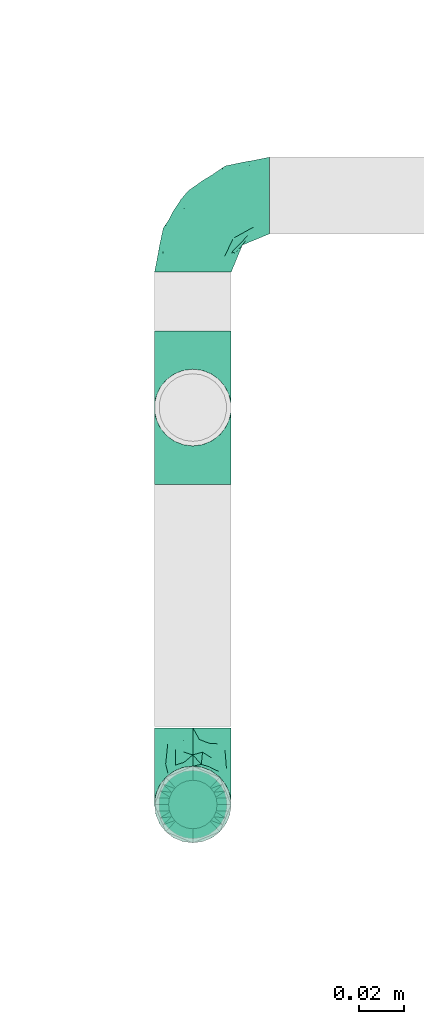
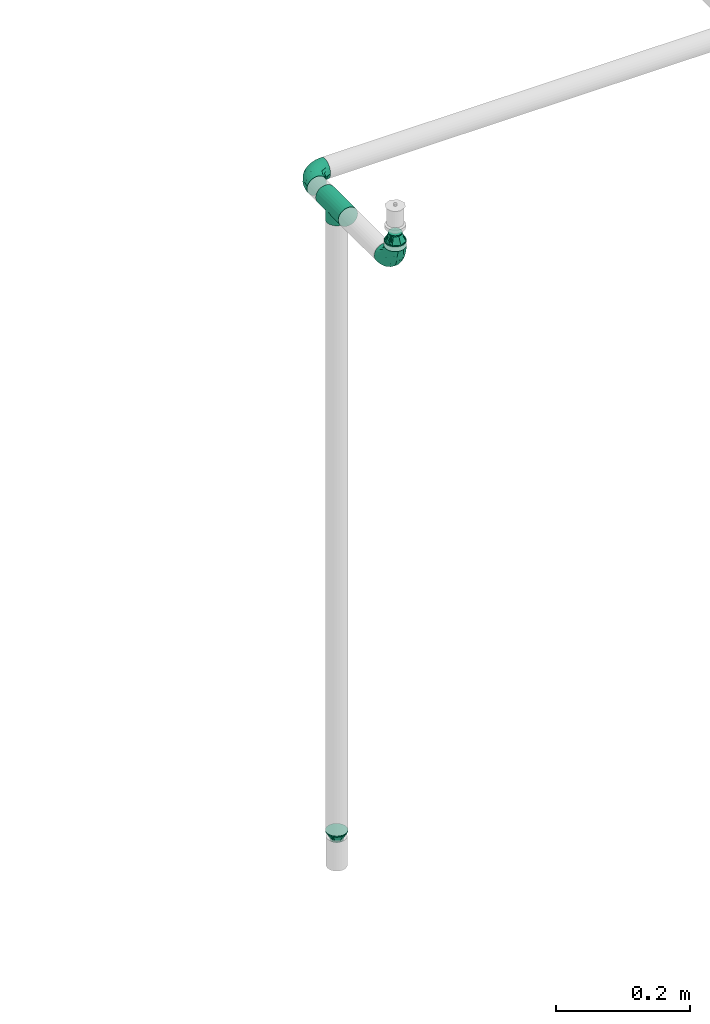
# One storey, part 72 of 94: 5 flow fittings.
"""IFC2X3 building model written with IfcOpenShell, lengths in millimetres."""

from ifc_helpers import new_model, entity, si_unit, converted_unit, derived_unit, direction, frame, origin_with_axes, place, context, subcontext, project, spatial, open_shell, surface_model, source, transform, mapped, type_object, element, save


model = new_model("IFC2X3")

# Units and contexts
model_context = context("Model", 3, precision=0.01, world=frame((0.0, 4.29681676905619e-09, 0.0)), true_north=direction((4.01073788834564e-13, 1.0)))
plan_context = context("Plan", 3, precision=0.01, world=frame((0.0, 4.29681676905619e-09, 0.0)), true_north=direction((4.01073788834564e-13, 1.0)))
body_context = subcontext(model_context, "Body", "Model", "MODEL_VIEW")
ifc_project = project(units=[converted_unit("PLANEANGLEUNIT", "DEGREE", entity("IfcPositiveLengthMeasure", 0.0174532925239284), si_unit("PLANEANGLEUNIT", "RADIAN"), dimensions=[0, 0, 0, 0, 0, 0, 0]), si_unit("AREAUNIT", "SQUARE_METRE"), si_unit("LENGTHUNIT", "METRE", prefix="MILLI"), si_unit("MASSUNIT", "GRAM", prefix="KILO"), si_unit("POWERUNIT", "WATT"), si_unit("PRESSUREUNIT", "PASCAL", prefix="KILO"), si_unit("FORCEUNIT", "NEWTON", prefix="KILO"), si_unit("ELECTRICVOLTAGEUNIT", "VOLT"), si_unit("ELECTRICCURRENTUNIT", "AMPERE"), si_unit("THERMODYNAMICTEMPERATUREUNIT", "DEGREE_CELSIUS"), si_unit("TIMEUNIT", "SECOND"), si_unit("VOLUMEUNIT", "CUBIC_METRE"), derived_unit("LINEARVELOCITYUNIT", [(si_unit("LENGTHUNIT", "METRE"), 1), (si_unit("TIMEUNIT", "SECOND"), -1)]), derived_unit("VOLUMETRICFLOWRATEUNIT", [(si_unit("VOLUMEUNIT", "CUBIC_METRE"), 1), (si_unit("TIMEUNIT", "SECOND"), -1)]), derived_unit("THERMALTRANSMITTANCEUNIT", [(si_unit("POWERUNIT", "WATT"), 1), (si_unit("THERMODYNAMICTEMPERATUREUNIT", "KELVIN"), -1), (si_unit("AREAUNIT", "SQUARE_METRE"), -1)]), derived_unit("SOUNDPRESSUREUNIT", [(si_unit("PRESSUREUNIT", "PASCAL"), 1)])], contexts=[model_context, plan_context])

# Site, building, storey
site_placement = place(None, frame((0.0, -4.29681676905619e-09, 0.0), z_axis=(0.0, 0.0, 1.0), x_axis=(1.0, 0.0, 0.0)))
site = spatial("IfcSite", under=ifc_project, at=site_placement, CompositionType="ELEMENT")
building_placement = place(site_placement, frame((0.0, 4.29681676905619e-09, 0.0), z_axis=(0.0, 0.0, 1.0), x_axis=(1.0, 0.0, 0.0)))
building = spatial("IfcBuilding", under=site, at=building_placement, Name="mc-building", CompositionType="ELEMENT")
storey_placement = place(building_placement, frame((0.0, 0.0, 210900.0), z_axis=(0.0, 0.0, 1.0), x_axis=(1.0, 0.0, 0.0)))
storey = spatial("IfcBuildingStorey", under=building, at=storey_placement, Name="Nivå F", CompositionType="ELEMENT", Elevation=210900.0)

# Flow fittings
pipe_fitting_type_1 = type_object("IfcPipeFittingType", Name="magi_pipe_fe_reducer_centric_short_NOR", PredefinedType="TRANSITION")
shared_shape_1 = source(origin_with_axes(), body_context, "Body", "SurfaceModel", [
    surface_model("IfcShellBasedSurfaceModel", [(14.4, 5.35, -9.26647), (14.4, 0.0, -10.7), (14.4, 2.76936, -10.33541), (14.4, 10.33541, -2.76936), (14.4, 7.56604, -7.56604), (14.4, -10.33541, -2.76936), (14.4, 9.26647, -5.35), (14.4, 0.0, 10.7), (14.4, -5.35, -9.26647), (14.4, -2.76936, -10.33541), (14.4, -7.56604, -7.56604), (14.4, -9.26647, -5.35), (14.4, 10.7, 0.0), (14.4, 10.33541, 2.76936), (14.4, 9.26647, 5.35), (14.4, 7.56604, 7.56604), (14.4, 2.76936, 10.33541), (14.4, 5.35, 9.26647), (14.4, -10.33541, 2.76936), (14.4, -7.56604, 7.56604), (14.4, -9.26647, 5.35), (14.4, -10.7, 0.0), (14.4, -2.76936, 10.33541), (14.4, -5.35, 9.26647), (12.4, 2.76936, 10.33541), (12.4, -10.33541, -2.76936), (12.4, 0.0, 10.7), (12.4, 5.35, 9.26647), (12.4, 7.56604, 7.56604), (12.4, 9.26647, 5.35), (12.4, 10.33541, 2.76936), (12.4, -10.33541, 2.76936), (12.4, -2.76936, 10.33541), (12.4, -7.56604, 7.56604), (12.4, -5.35, 9.26647), (12.4, -9.26647, 5.35), (12.4, -10.7, 0.0), (12.4, 10.33541, -2.76936), (12.4, 5.35, -9.26647), (12.4, 9.26647, -5.35), (12.4, 7.56604, -7.56604), (12.4, 2.76936, -10.33541), (12.4, -9.26647, -5.35), (12.4, -5.35, -9.26647), (12.4, -7.56604, -7.56604), (12.4, 0.0, -10.7), (12.4, -2.76936, -10.33541), (12.4, 10.7, 0.0), (-2.0, 11.9501, 11.9501), (-2.0, 0.0, 16.9), (-2.0, 4.37404, 16.32415), (-2.0, 8.45, 14.63583), (-2.0, 14.63583, 8.45), (-2.0, 16.32415, 4.37404), (-2.0, -16.32415, 4.37404), (-2.0, -8.45, 14.63583), (-2.0, -14.63583, 8.45), (-2.0, -11.9501, 11.9501), (-2.0, -4.37404, 16.32415), (-2.0, -16.32415, -4.37404), (-2.0, -16.9, 0.0), (-2.0, -8.45, -14.63583), (-2.0, 16.32415, -4.37404), (-2.0, 11.9501, -11.9501), (-2.0, 14.63583, -8.45), (-2.0, 8.45, -14.63583), (-2.0, 4.37404, -16.32415), (-2.0, 0.0, -16.9), (-2.0, -11.9501, -11.9501), (-2.0, -14.63583, -8.45), (-2.0, -4.37404, -16.32415), (-2.0, 16.9, 0.0), (0.0, 4.37404, -16.32415), (0.0, 8.45, -14.63583), (0.0, 11.9501, -11.9501), (0.0, 0.0, -16.9), (0.0, 16.32415, -4.37404), (0.0, 16.32415, 4.37404), (0.0, 14.63583, -8.45), (0.0, -8.45, -14.63583), (0.0, -4.37404, -16.32415), (0.0, -11.9501, -11.9501), (0.0, -16.32415, -4.37404), (0.0, -14.63583, -8.45), (0.0, -16.32415, 4.37404), (0.0, 16.9, 0.0), (0.0, 14.63583, 8.45), (0.0, 11.9501, 11.9501), (0.0, 4.37404, 16.32415), (0.0, 8.45, 14.63583), (0.0, 0.0, 16.9), (0.0, -14.63583, 8.45), (0.0, -16.9, 0.0), (0.0, -8.45, 14.63583), (0.0, -11.9501, 11.9501), (0.0, -4.37404, 16.32415), (12.4, 9.3625, -2.31662), (0.0, 14.42505, -5.97505), (0.0, 15.66253, -2.98753), (12.4, -6.6875, -6.94985), (0.0, -13.18758, -8.96258), (0.0, 2.98753, -15.66253), (12.4, 0.0, -9.26647), (12.4, 6.6875, -6.94985), (0.0, 8.96258, -13.18758), (12.4, -9.3625, -2.31662), (0.0, -15.66253, -2.98753), (0.0, -14.42505, -5.97505), (0.0, 5.97505, -14.42505), (0.0, -2.98753, -15.66253), (0.0, -8.96258, -13.18758), (0.0, 13.18758, -8.96258), (12.4, 8.025, -4.63324), (12.4, -2.675, -9.26647), (12.4, 2.675, -9.26647), (0.0, -5.97505, -14.42505), (12.4, -8.025, -4.63324), (12.4, -9.3625, 2.31662), (0.0, -14.42505, 5.97505), (0.0, -15.66253, 2.98753), (12.4, 6.6875, 6.94985), (0.0, 13.18758, 8.96258), (0.0, -2.98753, 15.66253), (12.4, 0.0, 9.26647), (12.4, -6.6875, 6.94985), (0.0, -8.96258, 13.18758), (12.4, 9.3625, 2.31662), (0.0, 15.66253, 2.98753), (0.0, 14.42505, 5.97505), (0.0, -5.97505, 14.42505), (0.0, 2.98753, 15.66253), (0.0, 8.96258, 13.18758), (0.0, -13.18758, 8.96258), (12.4, -8.025, 4.63324), (12.4, 2.675, 9.26647), (12.4, -2.675, 9.26647), (0.0, 5.97505, 14.42505), (12.4, 8.025, 4.63324)], [open_shell([[[0, 1, 2]], [[3, 0, 4]], [[5, 0, 3]], [[3, 4, 6]], [[7, 5, 3]], [[1, 8, 9]], [[1, 0, 8]], [[10, 5, 11]], [[5, 10, 8]], [[0, 5, 8]], [[3, 12, 13]], [[13, 14, 15]], [[13, 15, 16]], [[7, 3, 16]], [[16, 15, 17]], [[7, 18, 5]], [[18, 19, 20]], [[21, 5, 18]], [[19, 22, 23]], [[22, 19, 18]], [[7, 22, 18]], [[13, 16, 3]], [[24, 25, 26]], [[27, 25, 24]], [[28, 29, 30]], [[28, 25, 27]], [[31, 26, 25]], [[32, 33, 34]], [[33, 32, 31]], [[33, 31, 35]], [[32, 26, 31]], [[31, 25, 36]], [[30, 37, 28]], [[25, 28, 37]], [[38, 37, 39]], [[37, 38, 25]], [[38, 39, 40]], [[41, 25, 38]], [[42, 43, 44]], [[43, 42, 25]], [[43, 45, 46]], [[43, 25, 41]], [[41, 45, 43]], [[37, 30, 47]], [[25, 5, 36]], [[42, 11, 25]], [[8, 44, 43]], [[42, 44, 10]], [[9, 43, 46]], [[25, 11, 5]], [[5, 21, 36]], [[9, 8, 43]], [[10, 44, 8]], [[10, 11, 42]], [[1, 9, 46]], [[46, 45, 1]], [[41, 2, 45]], [[38, 0, 41]], [[6, 40, 39]], [[38, 40, 4]], [[3, 39, 37]], [[38, 4, 0]], [[0, 2, 41]], [[12, 3, 37]], [[6, 39, 3]], [[6, 4, 40]], [[47, 12, 37]], [[45, 2, 1]], [[30, 13, 47]], [[29, 14, 30]], [[17, 28, 27]], [[29, 28, 15]], [[16, 27, 24]], [[30, 14, 13]], [[13, 12, 47]], [[16, 17, 27]], [[15, 28, 17]], [[15, 14, 29]], [[7, 16, 24]], [[24, 26, 7]], [[32, 22, 26]], [[34, 23, 32]], [[20, 33, 35]], [[34, 33, 19]], [[18, 35, 31]], [[34, 19, 23]], [[23, 22, 32]], [[21, 18, 31]], [[20, 35, 18]], [[20, 19, 33]], [[36, 21, 31]], [[26, 22, 7]], [[48, 49, 50]], [[48, 50, 51]], [[48, 52, 53]], [[48, 53, 49]], [[49, 53, 54]], [[55, 56, 57]], [[55, 58, 49]], [[56, 55, 49]], [[49, 54, 56]], [[54, 59, 60]], [[54, 53, 61]], [[53, 62, 63]], [[63, 62, 64]], [[63, 65, 66]], [[61, 53, 63]], [[67, 63, 66]], [[59, 68, 69]], [[68, 59, 61]], [[61, 67, 70]], [[59, 54, 61]], [[63, 67, 61]], [[53, 71, 62]], [[72, 73, 74]], [[75, 72, 74]], [[74, 76, 77]], [[76, 74, 78]], [[74, 77, 79]], [[75, 79, 80]], [[75, 74, 79]], [[81, 82, 83]], [[82, 81, 79]], [[79, 84, 82]], [[77, 76, 85]], [[77, 86, 87]], [[77, 87, 88]], [[88, 84, 79]], [[88, 87, 89]], [[84, 88, 90]], [[90, 91, 84]], [[92, 82, 84]], [[91, 93, 94]], [[91, 90, 93]], [[93, 90, 95]], [[79, 77, 88]], [[59, 82, 60]], [[69, 83, 59]], [[79, 68, 61]], [[69, 68, 81]], [[80, 61, 70]], [[59, 83, 82]], [[82, 92, 60]], [[80, 79, 61]], [[81, 68, 79]], [[81, 83, 69]], [[75, 80, 70]], [[70, 67, 75]], [[66, 72, 67]], [[65, 73, 66]], [[78, 63, 64]], [[65, 63, 74]], [[76, 64, 62]], [[65, 74, 73]], [[73, 72, 66]], [[85, 76, 62]], [[78, 64, 76]], [[78, 74, 63]], [[71, 85, 62]], [[67, 72, 75]], [[53, 77, 71]], [[52, 86, 53]], [[89, 48, 51]], [[52, 48, 87]], [[88, 51, 50]], [[53, 86, 77]], [[77, 85, 71]], [[88, 89, 51]], [[87, 48, 89]], [[87, 86, 52]], [[90, 88, 50]], [[50, 49, 90]], [[58, 95, 49]], [[55, 93, 58]], [[91, 57, 56]], [[55, 57, 94]], [[84, 56, 54]], [[55, 94, 93]], [[93, 95, 58]], [[92, 84, 54]], [[91, 56, 84]], [[91, 94, 57]], [[60, 92, 54]], [[49, 95, 90]], [[27, 34, 47]], [[47, 34, 43]], [[43, 38, 47]], [[43, 34, 36]], [[90, 87, 94]], [[92, 94, 87]], [[87, 74, 92]], [[75, 92, 74]], [[81, 92, 75]], [[74, 87, 85]], [[96, 97, 98]], [[81, 99, 100]], [[101, 102, 75]], [[98, 85, 47]], [[74, 103, 104]], [[104, 103, 38]], [[105, 106, 107]], [[38, 108, 104]], [[102, 109, 75]], [[110, 99, 81]], [[47, 96, 98]], [[103, 111, 112]], [[109, 102, 113]], [[36, 92, 106]], [[102, 101, 114]], [[110, 115, 43]], [[96, 112, 97]], [[107, 116, 105]], [[36, 106, 105]], [[113, 115, 109]], [[43, 115, 113]], [[116, 107, 100]], [[108, 38, 114]], [[111, 103, 74]], [[111, 97, 112]], [[99, 110, 43]], [[116, 100, 99]], [[101, 108, 114]], [[117, 118, 119]], [[87, 120, 121]], [[122, 123, 90]], [[119, 92, 36]], [[94, 124, 125]], [[125, 124, 34]], [[126, 127, 128]], [[34, 129, 125]], [[123, 130, 90]], [[131, 120, 87]], [[36, 117, 119]], [[124, 132, 133]], [[130, 123, 134]], [[47, 85, 127]], [[123, 122, 135]], [[131, 136, 27]], [[117, 133, 118]], [[128, 137, 126]], [[47, 127, 126]], [[134, 136, 130]], [[27, 136, 134]], [[137, 128, 121]], [[129, 34, 135]], [[132, 124, 94]], [[132, 118, 133]], [[120, 131, 27]], [[137, 121, 120]], [[122, 129, 135]]])]),
])
for number, where, z_axis, x_axis, name in (
    (1, (715905.60992, 443491.81041, 4243.94871999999), (1.0, 0.0, 0.0), (0.0, 0.0, 1.0), "magi_pipe_fe_reducer_centric_short_NOR"),
    (2, (715905.60992, 443666.74027, 3059.35200000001), (1.0, 0.0, 0.0), (0.0, 0.0, -1.0), "magi_pipe_fe_reducer_centric_short_NOR"),
):
    element("IfcFlowFitting", number, at=place(storey_placement, frame(where, z_axis=z_axis, x_axis=x_axis)), inside=storey, type_object=pipe_fitting_type_1, Name=name, context=body_context, shape_type="MappedRepresentation", body=[
        mapped(shared_shape_1, transform((0.0, 0.0, 0.0), scale=1.0)),
    ])
pipe_fitting_type_2 = type_object("IfcPipeFittingType", Name="magi_pipe_fe_tee_centric_90_NOR", PredefinedType="JUNCTION")
shared_shape_2 = source(origin_with_axes(), body_context, "Body", "SurfaceModel", [
    surface_model("IfcShellBasedSurfaceModel", [(-33.8, 4.37404, -16.32415), (-33.8, 0.0, -16.9), (-33.8, 16.32415, -4.37404), (-33.8, 8.45, -14.63583), (-33.8, 11.9501, -11.9501), (-33.8, 14.63583, -8.45), (-33.8, -16.9, 0.0), (-33.8, -11.9501, -11.9501), (-33.8, -14.63583, -8.45), (-33.8, -8.45, -14.63583), (-33.8, -4.37404, -16.32415), (-33.8, -16.32415, -4.37404), (-33.8, 14.63583, 8.45), (-33.8, 16.32415, 4.37404), (-33.8, -8.45, 14.63583), (-33.8, 8.45, 14.63583), (-33.8, 11.9501, 11.9501), (-33.8, 4.37404, 16.32415), (-33.8, 0.0, 16.9), (-33.8, -11.9501, 11.9501), (-33.8, -14.63583, 8.45), (-33.8, -16.32415, 4.37404), (-33.8, -4.37404, 16.32415), (-33.8, 16.9, 0.0), (33.8, 4.37404, -16.32415), (33.8, -16.9, 0.0), (33.8, 0.0, -16.9), (33.8, 14.63583, -8.45), (33.8, 8.45, -14.63583), (33.8, 16.32415, -4.37404), (33.8, 11.9501, -11.9501), (33.8, -16.32415, 4.37404), (33.8, -8.45, -14.63583), (33.8, -4.37404, -16.32415), (33.8, -11.9501, -11.9501), (33.8, -14.63583, -8.45), (33.8, -16.32415, -4.37404), (33.8, 16.32415, 4.37404), (33.8, 8.45, 14.63583), (33.8, 14.63583, 8.45), (33.8, 11.9501, 11.9501), (33.8, -8.45, 14.63583), (33.8, 4.37404, 16.32415), (33.8, -14.63583, 8.45), (33.8, -11.9501, 11.9501), (33.8, 0.0, 16.9), (33.8, -4.37404, 16.32415), (33.8, 16.9, 0.0), (16.28698, -16.28698, 4.51047), (16.9, -16.9, 0.0), (14.62704, -14.62704, 8.4652), (9.47213, -9.47213, 13.99602), (12.26343, -12.26343, 11.62834), (-16.9, -16.9, 0.0), (-16.28698, -16.28698, 4.51047), (-14.62704, -14.62704, 8.4652), (-12.26343, -12.26343, 11.62834), (-9.47213, -9.47213, 13.99602), (-6.42894, -6.42894, 15.62942), (6.42894, -6.42894, 15.62942), (3.24522, -3.24522, 16.58549), (0.0, 0.0, 16.9), (-3.24522, -3.24522, 16.58549), (3.24522, -3.24522, -16.58549), (0.0, 0.0, -16.9), (-3.24522, -3.24522, -16.58549), (-6.42894, -6.42894, -15.62942), (6.42894, -6.42894, -15.62942), (9.47213, -9.47213, -13.99602), (12.26343, -12.26343, -11.62834), (14.62704, -14.62704, -8.4652), (16.28698, -16.28698, -4.51047), (-9.47213, -9.47213, -13.99602), (-12.26343, -12.26343, -11.62834), (-16.28698, -16.28698, -4.51047), (-14.62704, -14.62704, -8.4652), (4.37404, -25.35, -16.32415), (-16.9, -25.35, 0.0), (0.0, -25.35, -16.9), (14.63583, -25.35, -8.45), (8.45, -25.35, -14.63583), (16.32415, -25.35, -4.37404), (11.9501, -25.35, -11.9501), (-11.9501, -25.35, -11.9501), (-8.45, -25.35, -14.63583), (-4.37404, -25.35, -16.32415), (-14.63583, -25.35, -8.45), (-16.32415, -25.35, -4.37404), (16.9, -25.35, 0.0), (8.45, -25.35, 14.63583), (16.32415, -25.35, 4.37404), (14.63583, -25.35, 8.45), (-8.45, -25.35, 14.63583), (11.9501, -25.35, 11.9501), (4.37404, -25.35, 16.32415), (-16.32415, -25.35, 4.37404), (-11.9501, -25.35, 11.9501), (-14.63583, -25.35, 8.45), (0.0, -25.35, 16.9), (-4.37404, -25.35, 16.32415)], [open_shell([[[0, 1, 2]], [[3, 0, 4]], [[0, 2, 5]], [[4, 0, 5]], [[6, 2, 1]], [[7, 8, 9]], [[1, 10, 9]], [[11, 6, 8]], [[1, 9, 8]], [[1, 8, 6]], [[6, 12, 2]], [[12, 13, 2]], [[14, 12, 6]], [[12, 14, 15]], [[16, 12, 15]], [[17, 15, 18]], [[19, 14, 20]], [[21, 20, 14]], [[22, 18, 14]], [[14, 6, 21]], [[14, 18, 15]], [[23, 2, 13]], [[24, 25, 26]], [[27, 24, 28]], [[27, 29, 24]], [[27, 28, 30]], [[31, 25, 24]], [[26, 32, 33]], [[26, 34, 32]], [[35, 25, 36]], [[35, 34, 26]], [[25, 35, 26]], [[24, 29, 31]], [[29, 37, 38]], [[38, 37, 39]], [[38, 31, 29]], [[38, 39, 40]], [[41, 38, 42]], [[43, 41, 44]], [[41, 43, 31]], [[41, 45, 46]], [[41, 31, 38]], [[42, 45, 41]], [[29, 47, 37]], [[31, 43, 48]], [[25, 31, 49]], [[49, 31, 48]], [[43, 50, 48]], [[44, 41, 51]], [[50, 43, 52]], [[51, 52, 44]], [[52, 43, 44]], [[53, 54, 21]], [[53, 21, 6]], [[21, 54, 20]], [[54, 55, 20]], [[56, 57, 19]], [[19, 20, 56]], [[19, 57, 14]], [[56, 20, 55]], [[14, 57, 58]], [[51, 41, 59]], [[60, 45, 61]], [[59, 46, 60]], [[46, 59, 41]], [[60, 46, 45]], [[61, 45, 42]], [[39, 37, 13]], [[16, 38, 40]], [[12, 40, 39]], [[42, 38, 15]], [[23, 37, 47]], [[62, 61, 18]], [[62, 22, 58]], [[22, 62, 18]], [[58, 22, 14]], [[61, 17, 18]], [[42, 17, 61]], [[15, 17, 42]], [[15, 38, 16]], [[12, 16, 40]], [[13, 12, 39]], [[37, 23, 13]], [[5, 27, 30]], [[23, 47, 29]], [[30, 28, 3]], [[27, 2, 29]], [[26, 33, 63]], [[26, 64, 24]], [[64, 26, 63]], [[28, 24, 0]], [[64, 0, 24]], [[4, 30, 3]], [[2, 27, 5]], [[5, 30, 4]], [[2, 23, 29]], [[65, 66, 10]], [[1, 0, 64]], [[1, 65, 10]], [[66, 9, 10]], [[0, 3, 28]], [[1, 64, 65]], [[63, 33, 67]], [[32, 34, 68]], [[69, 68, 34]], [[35, 70, 69]], [[69, 34, 35]], [[32, 68, 67]], [[36, 25, 49]], [[36, 71, 35]], [[71, 36, 49]], [[35, 71, 70]], [[72, 9, 66]], [[72, 7, 9]], [[7, 72, 73]], [[7, 73, 8]], [[74, 53, 11]], [[75, 74, 8]], [[74, 11, 8]], [[11, 53, 6]], [[75, 8, 73]], [[32, 67, 33]], [[76, 77, 78]], [[79, 76, 80]], [[79, 81, 76]], [[79, 80, 82]], [[77, 76, 81]], [[78, 83, 84]], [[84, 85, 78]], [[86, 77, 87]], [[83, 78, 86]], [[77, 86, 78]], [[81, 88, 77]], [[89, 88, 90]], [[89, 90, 91]], [[92, 77, 89]], [[89, 91, 93]], [[92, 89, 94]], [[95, 96, 97]], [[96, 95, 92]], [[92, 98, 99]], [[95, 77, 92]], [[94, 98, 92]], [[89, 77, 88]], [[77, 95, 53]], [[54, 53, 95]], [[97, 96, 56]], [[96, 92, 57]], [[95, 97, 54]], [[58, 92, 99]], [[55, 54, 97]], [[56, 55, 97]], [[58, 57, 92]], [[98, 61, 62]], [[58, 99, 62]], [[56, 96, 57]], [[62, 99, 98]], [[94, 60, 98]], [[89, 59, 94]], [[91, 90, 48]], [[52, 93, 91]], [[93, 51, 89]], [[49, 90, 88]], [[59, 60, 94]], [[51, 59, 89]], [[49, 48, 90]], [[50, 52, 91]], [[48, 50, 91]], [[51, 93, 52]], [[98, 60, 61]], [[88, 81, 49]], [[71, 49, 81]], [[79, 82, 69]], [[82, 80, 68]], [[81, 79, 71]], [[67, 80, 76]], [[70, 71, 79]], [[69, 70, 79]], [[67, 68, 80]], [[78, 64, 63]], [[67, 76, 63]], [[69, 82, 68]], [[63, 76, 78]], [[85, 65, 78]], [[84, 66, 85]], [[86, 87, 74]], [[86, 73, 83]], [[72, 84, 83]], [[53, 87, 77]], [[66, 65, 85]], [[72, 66, 84]], [[53, 74, 87]], [[75, 73, 86]], [[74, 75, 86]], [[72, 83, 73]], [[78, 65, 64]]])]),
])
flow_fitting_placement = place(storey_placement, frame((715905.60992, 443666.74027, 4200.0), z_axis=(1.0, 0.0, 0.0), x_axis=(0.0, 1.0, 0.0)))
element("IfcFlowFitting", 3, at=flow_fitting_placement, inside=storey, type_object=pipe_fitting_type_2, Name="magi_pipe_fe_tee_centric_90_NOR", context=body_context, shape_type="MappedRepresentation", body=[
    mapped(shared_shape_2, transform((0.0, 0.0, 0.0), scale=1.0)),
])
pipe_fitting_type_3 = type_object("IfcPipeFittingType", Name="magi_pipe_fe_elbow_short_001", PredefinedType="BEND")
shared_shape_3 = source(origin_with_axes(), body_context, "Body", "SurfaceModel", [
    surface_model("IfcShellBasedSurfaceModel", [(-33.8, 8.45, -14.63583), (-33.8, 4.37404, -16.32415), (-33.8, 11.9501, -11.9501), (-33.8, -11.9501, -11.9501), (-33.8, -14.63583, -8.45), (-33.8, -8.45, -14.63583), (-33.8, 0.0, -16.9), (-33.8, -4.37404, -16.32415), (-33.8, -4.37404, 16.32415), (-33.8, 0.0, 16.9), (-33.8, -8.45, 14.63583), (-33.8, 16.32415, -4.37404), (-33.8, 14.63583, -8.45), (-33.8, -16.32415, -4.37404), (-33.8, -16.9, 0.0), (-33.8, -16.32415, 4.37404), (-33.8, 11.9501, 11.9501), (-33.8, 14.63583, 8.45), (-33.8, 16.32415, 4.37404), (-33.8, 4.37404, 16.32415), (-33.8, 8.45, 14.63583), (-33.8, -14.63583, 8.45), (-33.8, -11.9501, 11.9501), (-33.8, 16.9, 0.0), (-11.9501, 33.8, -11.9501), (0.0, 33.8, -16.9), (-4.37404, 33.8, -16.32415), (-8.45, 33.8, -14.63583), (-14.63583, 33.8, -8.45), (-16.32415, 33.8, -4.37404), (14.63583, 33.8, -8.45), (8.45, 33.8, 14.63583), (16.32415, 33.8, -4.37404), (8.45, 33.8, -14.63583), (11.9501, 33.8, -11.9501), (4.37404, 33.8, -16.32415), (16.32415, 33.8, 4.37404), (16.9, 33.8, 0.0), (-11.9501, 33.8, 11.9501), (-16.32415, 33.8, 4.37404), (-14.63583, 33.8, 8.45), (-8.45, 33.8, 14.63583), (-4.37404, 33.8, 16.32415), (11.9501, 33.8, 11.9501), (14.63583, 33.8, 8.45), (0.0, 33.8, 16.9), (4.37404, 33.8, 16.32415), (-16.9, 33.8, 0.0), (-24.79389, -13.12945, 9.48721), (-22.19287, -9.75018, 12.59315), (-24.09897, -14.97035, 0.0), (-14.93934, -10.76256, 8.5297), (-22.46095, -14.75051, 5.27077), (14.75051, 22.46094, 5.27077), (11.9251, 13.23888, 4.33236), (13.04069, 14.39795, 0.0), (7.71387, 13.68847, 11.55891), (9.75018, 22.19287, 12.59315), (4.10169, 13.0571, 14.04018), (-24.84007, -6.39063, 15.2048), (-25.81779, -2.23879, 16.61097), (-23.66549, 2.59054, 16.87119), (-26.50418, 14.06512, 11.08152), (-24.21253, 17.66365, 7.72657), (-29.58514, 15.86957, 7.00283), (-6.17382, -7.5455, 0.0), (-13.23888, -11.9251, 4.33236), (-14.39795, -13.04069, 0.0), (-17.81434, 18.87373, 11.97104), (-6.30846, 29.15138, 15.82987), (-2.31622, 25.28002, 16.85849), (-29.23923, 10.23435, 13.77053), (-1.45439, -2.85688, 7.61475), (-0.28326, 0.34872, 10.09509), (-5.74484, -4.04709, 10.4122), (-4.41137, 11.31918, 16.59407), (-8.39727, 3.10034, 15.7812), (-1.72649, 9.1306, 15.53089), (-17.39909, 24.75344, 7.64977), (-26.19233, 20.0512, 0.0), (-28.14518, 17.29657, 4.25857), (-26.05147, 6.6281, 15.96447), (-5.87354, 16.61944, 16.86968), (-12.51807, 12.51807, 16.48937), (-10.06312, 7.38516, 16.81295), (-3.01882, 3.01882, 13.81718), (-13.0571, -4.10169, 14.04018), (-16.82553, -0.15166, 16.38038), (10.76256, 14.93934, 8.5297), (13.12945, 24.79389, 9.48721), (6.39063, 24.84007, 15.2048), (2.23879, 25.81779, 16.61097), (-13.68847, -7.71387, 11.55891), (14.97035, 24.09897, 0.0), (-7.30894, 22.89991, 16.09489), (-10.67958, 26.17414, 14.008), (-12.78295, 18.26924, 15.06066), (-13.88562, 22.45231, 12.93244), (-18.04944, 15.16501, 14.04434), (-23.11658, 20.08178, 4.02986), (-21.84989, 21.84989, 0.0), (-18.55817, 25.48277, 3.93065), (-13.95142, 26.94732, 11.03289), (-18.57098, 7.23906, 16.59756), (-16.58335, 4.14122, 16.89279), (-17.96666, 11.46709, 15.63151), (-9.84453, 17.54304, 16.18938), (0.15166, 16.82553, 16.38038), (-23.27207, 11.47201, 14.23154), (3.84842, 5.86994, 10.70473), (-8.0212, -7.54413, 7.93275), (1.00345, -2.19508, 4.57414), (5.13203, 3.01004, 5.90201), (5.24161, 1.7543, 2.53265), (8.70457, 7.04947, 3.99182), (-20.0512, 26.19233, 0.0), (8.4852, 8.76699, 7.09296), (-4.55488, -6.72064, 4.90681), (2.05031, -2.05031, 0.0), (7.5455, 6.17382, 0.0), (-26.75399, 2.1369, -16.845), (-14.61995, 24.73803, -11.27736), (-28.45274, -13.45335, -9.81895), (-26.00469, 6.63555, -15.96645), (-23.06726, 20.04573, -4.26202), (-13.80647, -4.26506, -14.17873), (-14.67501, -0.21081, -16.07388), (-6.7902, -0.2828, -13.8478), (-24.53586, 11.08096, -14.13417), (-26.72048, 14.00837, -11.05776), (10.0967, 24.44989, -12.75976), (5.83237, 21.40218, -15.03047), (6.66249, 28.54238, -15.38093), (-20.38182, 15.48705, -12.74596), (12.53268, 21.23441, -9.15363), (12.54494, 15.67504, -5.54878), (9.7522, 12.89279, -8.66343), (-15.65186, 19.64213, -13.01327), (-12.03528, 20.66498, -14.67665), (-15.61907, 15.61906, -14.83879), (-25.56551, -15.26206, 0.0), (-24.65452, -15.12934, -5.50955), (13.45335, 28.45274, -9.81895), (15.12934, 24.65452, -5.50955), (-7.35442, -8.31014, -5.65563), (-15.67504, -12.54494, -5.54878), (-24.44989, -10.0967, -12.75976), (0.16522, 0.41303, -9.71728), (-5.70658, -5.33066, -8.89288), (-5.13869, -2.37198, -11.53565), (-21.23441, -12.53268, -9.15363), (0.71146, 7.93863, -14.09382), (0.21081, 14.67501, -16.07388), (3.49291, 14.42772, -14.76381), (-24.89911, -2.13088, -16.591), (-28.54238, -6.66249, -15.38093), (-18.44386, -7.71663, -13.26957), (2.13088, 24.89911, -16.591), (-28.64342, 17.44413, -2.89318), (1.70017, -1.28722, -5.09504), (-16.57067, 26.81947, -7.36596), (-17.69055, 27.4263, -3.76405), (-12.89279, -9.7522, -8.66343), (-5.96611, 5.96611, -15.95814), (-20.53709, 20.09345, -8.28985), (-2.1369, 26.75399, -16.845), (-6.89872, 24.58781, -16.02578), (-10.60739, 26.53157, -13.98044), (-21.40218, -5.83237, -15.03047), (2.93192, 5.89627, -11.55917), (6.89393, 12.61842, -11.82233), (5.58056, 5.95325, -8.79455), (-3.99512, 18.61798, -16.89635), (8.31014, 7.35442, -5.65563), (-9.1383, 9.86148, -16.89041), (-9.99983, 16.02119, -16.39699), (-16.68576, 9.78031, -16.34199), (-27.01915, 16.61158, -7.12979), (15.26206, 25.56551, 0.0), (-18.61798, 3.99512, -16.89635), (-19.37495, 27.82495, 0.0), (-12.61842, -6.89393, -11.82233), (-18.84705, 19.14018, -10.96545)], [open_shell([[[0, 1, 2]], [[3, 4, 5]], [[6, 7, 5]], [[8, 9, 10]], [[1, 6, 2]], [[11, 12, 2]], [[4, 2, 6]], [[2, 13, 10]], [[5, 4, 6]], [[2, 4, 13]], [[14, 15, 13]], [[11, 2, 16]], [[11, 17, 18]], [[11, 16, 17]], [[19, 20, 16]], [[16, 2, 10]], [[19, 16, 10]], [[21, 22, 15]], [[22, 13, 15]], [[22, 10, 13]], [[10, 9, 19]], [[11, 18, 23]], [[24, 25, 26]], [[24, 26, 27]], [[24, 28, 29]], [[25, 24, 30]], [[31, 32, 24]], [[33, 30, 34]], [[33, 35, 25]], [[25, 30, 33]], [[32, 30, 24]], [[32, 36, 37]], [[38, 24, 29]], [[39, 40, 29]], [[40, 38, 29]], [[38, 41, 42]], [[38, 31, 24]], [[31, 38, 42]], [[36, 43, 44]], [[36, 32, 43]], [[31, 45, 46]], [[32, 31, 43]], [[42, 45, 31]], [[39, 29, 47]], [[22, 48, 49]], [[15, 14, 50]], [[51, 48, 52]], [[53, 54, 55]], [[48, 22, 21]], [[15, 52, 21]], [[56, 57, 58]], [[49, 10, 22]], [[49, 59, 10]], [[9, 60, 61]], [[62, 63, 64]], [[65, 66, 67]], [[57, 43, 31]], [[62, 68, 63]], [[42, 69, 70]], [[20, 71, 16]], [[8, 60, 9]], [[72, 73, 74]], [[75, 76, 77]], [[16, 62, 17]], [[40, 39, 78]], [[79, 23, 80]], [[64, 18, 17]], [[9, 61, 19]], [[19, 81, 20]], [[82, 83, 84]], [[74, 85, 86]], [[59, 86, 87]], [[88, 89, 57]], [[90, 31, 46]], [[44, 53, 36]], [[46, 45, 91]], [[54, 53, 88]], [[44, 89, 53]], [[92, 86, 49]], [[89, 44, 43]], [[10, 59, 8]], [[53, 55, 93]], [[93, 36, 53]], [[66, 52, 67]], [[94, 82, 70]], [[95, 96, 94]], [[97, 98, 96]], [[79, 99, 100]], [[41, 38, 95]], [[101, 100, 99]], [[68, 78, 63]], [[42, 41, 69]], [[23, 18, 80]], [[95, 94, 69]], [[78, 101, 99]], [[38, 102, 95]], [[70, 45, 42]], [[97, 95, 102]], [[15, 50, 52]], [[90, 57, 31]], [[57, 90, 58]], [[81, 19, 61]], [[103, 104, 84]], [[105, 81, 103]], [[38, 40, 102]], [[106, 96, 83]], [[94, 106, 82]], [[91, 70, 107]], [[71, 62, 16]], [[62, 108, 98]], [[86, 59, 49]], [[67, 52, 50]], [[60, 59, 87]], [[92, 49, 51]], [[86, 85, 76]], [[91, 90, 46]], [[37, 36, 93]], [[107, 77, 58]], [[107, 58, 90]], [[58, 85, 109]], [[110, 74, 92]], [[72, 74, 110]], [[66, 51, 52]], [[72, 111, 112]], [[113, 114, 112]], [[56, 88, 57]], [[52, 48, 21]], [[49, 48, 51]], [[57, 89, 43]], [[53, 89, 88]], [[103, 81, 61]], [[71, 81, 108]], [[18, 64, 80]], [[63, 78, 99]], [[47, 115, 101]], [[101, 115, 100]], [[40, 78, 102]], [[68, 102, 78]], [[97, 96, 95]], [[105, 98, 108]], [[103, 84, 83]], [[107, 70, 82]], [[76, 84, 87]], [[82, 84, 75]], [[70, 91, 45]], [[90, 91, 107]], [[59, 60, 8]], [[61, 60, 87]], [[73, 85, 74]], [[109, 112, 116]], [[103, 61, 104]], [[105, 103, 83]], [[96, 105, 83]], [[81, 105, 108]], [[96, 98, 105]], [[62, 98, 68]], [[61, 87, 104]], [[87, 84, 104]], [[86, 76, 87]], [[77, 76, 85]], [[58, 77, 85]], [[75, 77, 107]], [[82, 75, 107]], [[76, 75, 84]], [[81, 71, 20]], [[62, 71, 108]], [[95, 69, 41]], [[70, 69, 94]], [[62, 64, 17]], [[80, 63, 99]], [[63, 80, 64]], [[80, 99, 79]], [[66, 65, 117]], [[110, 66, 117]], [[112, 114, 116]], [[118, 117, 65]], [[110, 92, 51]], [[112, 111, 113]], [[119, 55, 54]], [[74, 86, 92]], [[58, 109, 56]], [[116, 56, 109]], [[66, 110, 51]], [[72, 110, 117]], [[111, 72, 117]], [[73, 112, 109]], [[117, 118, 111]], [[113, 111, 118]], [[118, 119, 113]], [[114, 119, 54]], [[119, 114, 113]], [[116, 54, 88]], [[54, 116, 114]], [[116, 88, 56]], [[112, 73, 72]], [[85, 73, 109]], [[78, 39, 101]], [[47, 101, 39]], [[102, 68, 97]], [[97, 68, 98]], [[82, 106, 83]], [[94, 96, 106]], [[1, 120, 6]], [[28, 24, 121]], [[3, 122, 4]], [[0, 123, 1]], [[100, 124, 79]], [[125, 126, 127]], [[128, 2, 129]], [[130, 131, 132]], [[128, 129, 133]], [[134, 135, 136]], [[137, 138, 139]], [[128, 0, 2]], [[67, 140, 141]], [[134, 142, 143]], [[141, 13, 4]], [[144, 65, 145]], [[146, 3, 5]], [[147, 148, 149]], [[145, 141, 150]], [[151, 152, 153]], [[154, 7, 6]], [[5, 155, 146]], [[150, 146, 156]], [[155, 5, 7]], [[143, 135, 134]], [[35, 157, 25]], [[23, 79, 158]], [[148, 159, 144]], [[160, 161, 29]], [[145, 162, 144]], [[163, 152, 151]], [[29, 28, 160]], [[121, 164, 160]], [[33, 34, 130]], [[25, 165, 26]], [[26, 165, 166]], [[142, 34, 30]], [[24, 27, 167]], [[124, 161, 164]], [[157, 35, 132]], [[155, 154, 168]], [[123, 0, 128]], [[169, 170, 171]], [[172, 157, 152]], [[26, 166, 27]], [[132, 35, 33]], [[142, 130, 34]], [[168, 154, 126]], [[136, 135, 173]], [[133, 137, 139]], [[2, 12, 129]], [[170, 131, 130]], [[30, 32, 143]], [[172, 174, 175]], [[176, 123, 128]], [[158, 177, 11]], [[135, 55, 119]], [[167, 27, 166]], [[175, 166, 172]], [[137, 167, 138]], [[122, 141, 4]], [[140, 14, 13]], [[32, 37, 178]], [[170, 130, 134]], [[152, 157, 131]], [[165, 157, 172]], [[153, 170, 151]], [[152, 163, 174]], [[168, 125, 156]], [[122, 146, 150]], [[120, 154, 6]], [[179, 174, 126]], [[179, 126, 154]], [[126, 163, 127]], [[162, 145, 150]], [[140, 13, 141]], [[32, 178, 143]], [[55, 143, 178]], [[177, 129, 12]], [[128, 133, 139]], [[176, 128, 139]], [[120, 123, 179]], [[121, 160, 28]], [[161, 100, 180]], [[166, 175, 138]], [[121, 24, 167]], [[161, 47, 29]], [[79, 124, 158]], [[124, 164, 177]], [[161, 124, 100]], [[136, 171, 170]], [[127, 163, 151]], [[147, 171, 159]], [[148, 144, 162]], [[127, 151, 169]], [[127, 181, 125]], [[129, 177, 164]], [[12, 11, 177]], [[159, 65, 144]], [[67, 141, 145]], [[143, 55, 135]], [[135, 119, 173]], [[123, 120, 1]], [[154, 120, 179]], [[157, 165, 25]], [[166, 165, 172]], [[172, 152, 174]], [[176, 139, 175]], [[126, 174, 163]], [[176, 174, 179]], [[174, 176, 175]], [[123, 176, 179]], [[150, 181, 162]], [[127, 149, 181]], [[181, 148, 162]], [[159, 148, 147]], [[171, 136, 173]], [[170, 134, 136]], [[159, 171, 173]], [[171, 147, 169]], [[169, 147, 149]], [[151, 170, 169]], [[164, 182, 129]], [[182, 121, 137]], [[181, 149, 148]], [[169, 149, 127]], [[182, 137, 133]], [[167, 137, 121]], [[166, 138, 167]], [[175, 139, 138]], [[129, 182, 133]], [[121, 182, 164]], [[161, 160, 164]], [[47, 161, 180]], [[177, 158, 124]], [[23, 158, 11]], [[130, 132, 33]], [[157, 132, 131]], [[143, 142, 30]], [[130, 142, 134]], [[154, 155, 7]], [[146, 155, 168]], [[146, 122, 3]], [[141, 122, 150]], [[152, 131, 153]], [[159, 119, 118]], [[67, 145, 65]], [[170, 153, 131]], [[119, 159, 173]], [[159, 118, 65]], [[156, 125, 181]], [[126, 125, 168]], [[150, 156, 181]], [[168, 156, 146]]])]),
])
for number, where, z_axis, x_axis, name in (
    (4, (715905.60992, 443760.1901, 4200.0), (0.0, 0.0, 1.0), (-1.0, 0.0, 0.0), "magi_pipe_fe_elbow_short_001"),
    (5, (715905.60992, 443491.81041, 4200.0), (-1.0, 0.0, 0.0), (0.0, -1.0, 0.0), "magi_pipe_fe_elbow_short_001"),
):
    element("IfcFlowFitting", number, at=place(storey_placement, frame(where, z_axis=z_axis, x_axis=x_axis)), inside=storey, type_object=pipe_fitting_type_3, Name=name, context=body_context, shape_type="MappedRepresentation", body=[
        mapped(shared_shape_3, transform((0.0, 0.0, 0.0), scale=1.0)),
    ])

save(model, "model.ifc")
